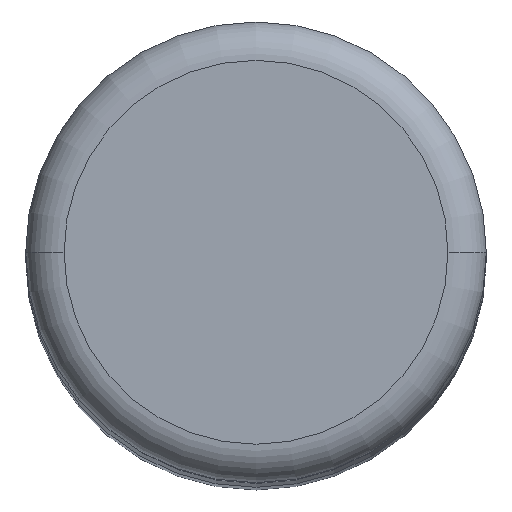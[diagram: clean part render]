
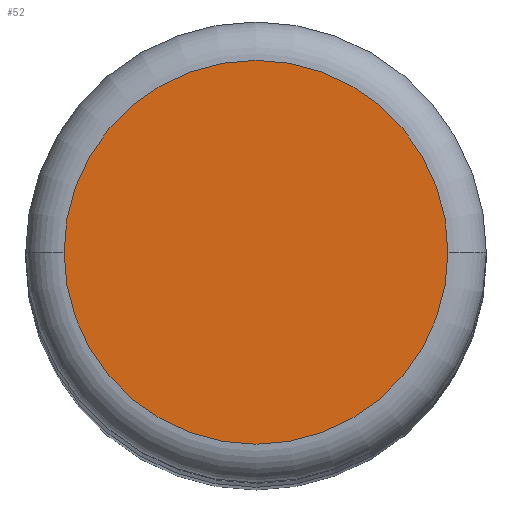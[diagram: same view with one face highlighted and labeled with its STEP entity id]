
A CAD part, top view. The second image highlights one B-rep face of the part: STEP entity #52.
In plain terms, the highlighted planar face has unit normal (0, 0, 1).
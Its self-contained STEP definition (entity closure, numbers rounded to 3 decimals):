
#52=ADVANCED_FACE('',(#104),#105,.T.);
#104=FACE_OUTER_BOUND('',#152,.T.);
#105=PLANE('',#153);
#152=EDGE_LOOP('',(#228,#229));
#153=AXIS2_PLACEMENT_3D('',#230,#231,#232);
#228=ORIENTED_EDGE('',*,*,#293,.T.);
#229=ORIENTED_EDGE('',*,*,#298,.T.);
#230=CARTESIAN_POINT('',(0.0,0.0,110.0));
#231=DIRECTION('',(0.0,0.0,1.0));
#232=DIRECTION('',(1.0,0.0,0.0));
#293=EDGE_CURVE('',#341,#343,#345,.T.);
#298=EDGE_CURVE('',#343,#341,#350,.T.);
#341=VERTEX_POINT('',#401);
#343=VERTEX_POINT('',#403);
#345=CIRCLE('',#405,5.0);
#350=CIRCLE('',#410,5.0);
#401=CARTESIAN_POINT('',(5.0,0.0,110.0));
#403=CARTESIAN_POINT('',(-5.0,0.,110.0));
#405=AXIS2_PLACEMENT_3D('',#454,#455,#456);
#410=AXIS2_PLACEMENT_3D('',#463,#464,#465);
#454=CARTESIAN_POINT('',(0.0,0.0,110.0));
#455=DIRECTION('',(0.0,0.0,1.0));
#456=DIRECTION('',(1.0,0.0,0.0));
#463=CARTESIAN_POINT('',(0.0,0.0,110.0));
#464=DIRECTION('',(0.0,0.0,1.0));
#465=DIRECTION('',(1.0,0.0,0.0));
